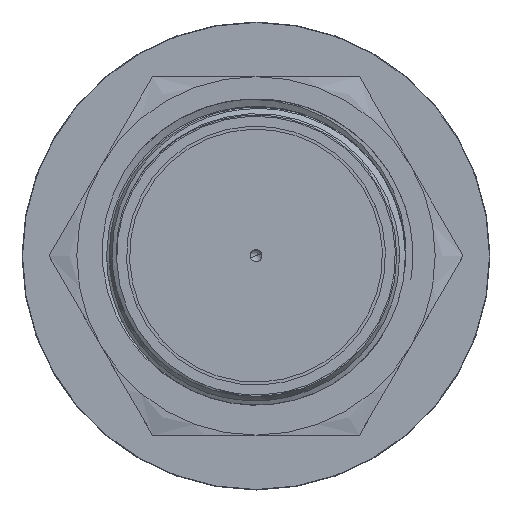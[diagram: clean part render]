
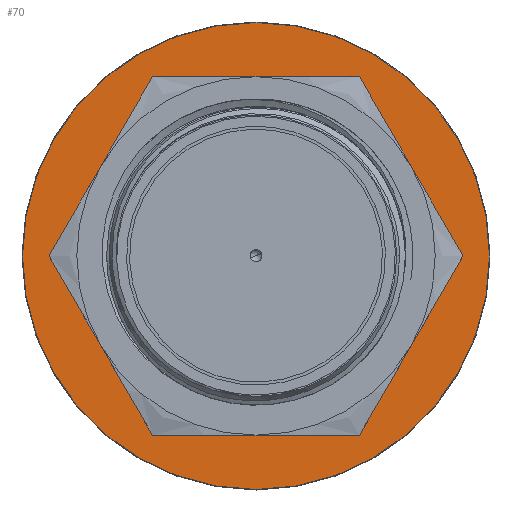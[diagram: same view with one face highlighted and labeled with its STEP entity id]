
A CAD part, top view. The second image highlights one B-rep face of the part: STEP entity #70.
In plain terms, the highlighted planar face has unit normal (0, 0, 1) as drawn and (0, 1, 0) by its records, which use the part's own axes.
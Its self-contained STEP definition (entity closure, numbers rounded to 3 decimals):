
#70 = ADVANCED_FACE ( 'NONE', ( #8905, #1899 ), #18002, .T. ) ;
#267 = DIRECTION ( 'NONE',  ( 0., 1., 0. ) ) ;
#390 = CIRCLE ( 'NONE', #21641, 23.45 ) ;
#1226 = EDGE_CURVE ( 'NONE', #6023, #20918, #19306, .T. ) ;
#1899 = FACE_OUTER_BOUND ( 'NONE', #19686, .T. ) ;
#2112 = ORIENTED_EDGE ( 'NONE', *, *, #16344, .F. ) ;
#2861 = DIRECTION ( 'NONE',  ( 0., 0., 1. ) ) ;
#3920 = DIRECTION ( 'NONE',  ( 0., 0., 1. ) ) ;
#4203 = EDGE_CURVE ( 'NONE', #20947, #12088, #390, .T. ) ;
#4380 = DIRECTION ( 'NONE',  ( 0., 1., 0. ) ) ;
#5100 = CIRCLE ( 'NONE', #8084, 15.5 ) ;
#6023 = VERTEX_POINT ( 'NONE', #6848 ) ;
#6848 = CARTESIAN_POINT ( 'NONE',  ( 0., 1., 15.5 ) ) ;
#7012 = AXIS2_PLACEMENT_3D ( 'NONE', #9787, #16464, #15042 ) ;
#8022 = DIRECTION ( 'NONE',  ( 0., 1., 0. ) ) ;
#8083 = CARTESIAN_POINT ( 'NONE',  ( 0., 1., -23.45 ) ) ;
#8084 = AXIS2_PLACEMENT_3D ( 'NONE', #20382, #4380, #3920 ) ;
#8790 = ORIENTED_EDGE ( 'NONE', *, *, #17291, .T. ) ;
#8905 = FACE_BOUND ( 'NONE', #10999, .T. ) ;
#9787 = CARTESIAN_POINT ( 'NONE',  ( 0., 1., 0. ) ) ;
#10999 = EDGE_LOOP ( 'NONE', ( #2112, #19298 ) ) ;
#11048 = CARTESIAN_POINT ( 'NONE',  ( 0., 1., 0. ) ) ;
#12088 = VERTEX_POINT ( 'NONE', #8083 ) ;
#13410 = CARTESIAN_POINT ( 'NONE',  ( 0., 1., -15.5 ) ) ;
#14514 = AXIS2_PLACEMENT_3D ( 'NONE', #11048, #17939, #19573 ) ;
#15042 = DIRECTION ( 'NONE',  ( 0., 0., 1. ) ) ;
#16344 = EDGE_CURVE ( 'NONE', #20918, #6023, #5100, .T. ) ;
#16464 = DIRECTION ( 'NONE',  ( 0., 1., 0. ) ) ;
#17108 = CIRCLE ( 'NONE', #14514, 23.45 ) ;
#17291 = EDGE_CURVE ( 'NONE', #12088, #20947, #17108, .T. ) ;
#17939 = DIRECTION ( 'NONE',  ( 0., 1., 0. ) ) ;
#18002 = PLANE ( 'NONE',  #19035 ) ;
#18118 = DIRECTION ( 'NONE',  ( 1., 0., 0. ) ) ;
#18640 = CARTESIAN_POINT ( 'NONE',  ( 0., 1., 0. ) ) ;
#18892 = CARTESIAN_POINT ( 'NONE',  ( 0., 1., 23.45 ) ) ;
#19035 = AXIS2_PLACEMENT_3D ( 'NONE', #19638, #267, #18118 ) ;
#19298 = ORIENTED_EDGE ( 'NONE', *, *, #1226, .F. ) ;
#19306 = CIRCLE ( 'NONE', #7012, 15.5 ) ;
#19573 = DIRECTION ( 'NONE',  ( 0., 0., 1. ) ) ;
#19638 = CARTESIAN_POINT ( 'NONE',  ( 0., 1., 0. ) ) ;
#19686 = EDGE_LOOP ( 'NONE', ( #8790, #22754 ) ) ;
#20382 = CARTESIAN_POINT ( 'NONE',  ( 0., 1., 0. ) ) ;
#20918 = VERTEX_POINT ( 'NONE', #13410 ) ;
#20947 = VERTEX_POINT ( 'NONE', #18892 ) ;
#21641 = AXIS2_PLACEMENT_3D ( 'NONE', #18640, #8022, #2861 ) ;
#22754 = ORIENTED_EDGE ( 'NONE', *, *, #4203, .T. ) ;
